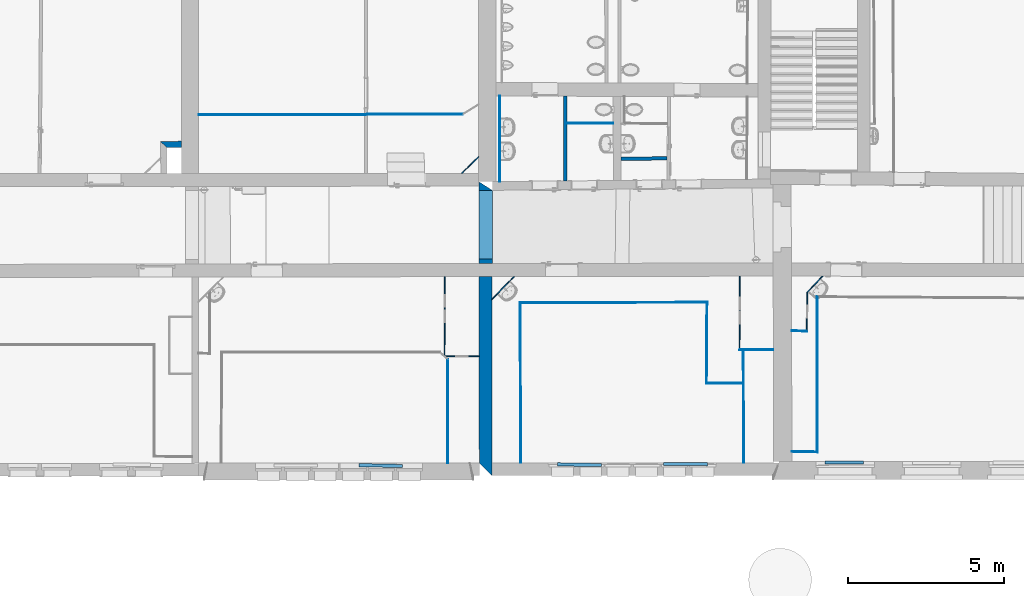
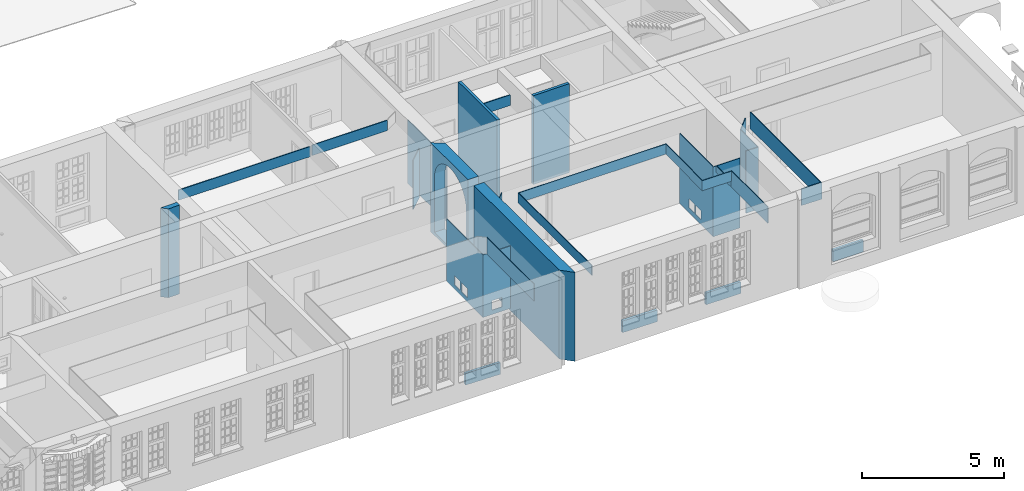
# One storey, part 33 of 158: 31 walls, 7 openings.
"""IFC2X3 building model written with IfcOpenShell, lengths in metres."""

from ifc_helpers import new_model, entity, si_unit, converted_unit, derived_unit, money_unit, direction, frame, origin_with_axes, origin_2d_with_axis, place, context, subcontext, project, spatial, polyline, rectangle, outline, extrude, faceted_brep, material, layer, layer_set, layer_usage, type_object, element, save


model = new_model("IFC2X3")

# Units and contexts
model_context = context("Model", 3, precision=1e-05, world=origin_with_axes(), true_north=direction((0.0, 1.0)))
body_context = subcontext(model_context, "Body", "Model", "MODEL_VIEW")
ifc_project = project(units=[si_unit("LENGTHUNIT", "METRE"), si_unit("AREAUNIT", "SQUARE_METRE"), si_unit("VOLUMEUNIT", "CUBIC_METRE"), converted_unit("PLANEANGLEUNIT", "DEGREE", entity("IfcPlaneAngleMeasure", 0.0174532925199), si_unit("PLANEANGLEUNIT", "RADIAN"), dimensions=[0, 0, 0, 0, 0, 0, 0]), money_unit("EUR"), converted_unit("TIMEUNIT", "Year", entity("IfcTimeMeasure", 31556926.0), si_unit("TIMEUNIT", "SECOND"), dimensions=[0, 0, 1, 0, 0, 0, 0]), si_unit("MASSUNIT", "GRAM", prefix="KILO"), si_unit("THERMODYNAMICTEMPERATUREUNIT", "DEGREE_CELSIUS"), si_unit("LUMINOUSINTENSITYUNIT", "LUMEN"), si_unit("ENERGYUNIT", "JOULE", prefix="MEGA"), derived_unit("THERMALCONDUCTANCEUNIT", [(si_unit("POWERUNIT", "WATT"), 1), (si_unit("LENGTHUNIT", "METRE"), -1), (si_unit("THERMODYNAMICTEMPERATUREUNIT", "KELVIN"), -1)]), derived_unit("SPECIFICHEATCAPACITYUNIT", [(si_unit("ENERGYUNIT", "JOULE"), 1), (si_unit("MASSUNIT", "GRAM", prefix="KILO"), -1), (si_unit("THERMODYNAMICTEMPERATUREUNIT", "KELVIN"), -1)]), derived_unit("MASSDENSITYUNIT", [(si_unit("MASSUNIT", "GRAM", prefix="KILO"), 1), (si_unit("VOLUMEUNIT", "CUBIC_METRE"), -1)])], contexts=[model_context])

# Site, building, storey
site_placement = place(None, origin_with_axes())
site = spatial("IfcSite", under=ifc_project, at=site_placement, Name="Gelände", CompositionType="ELEMENT")
building_placement = place(site_placement, origin_with_axes())
building = spatial("IfcBuilding", under=site, at=building_placement, Name="Gebäude", CompositionType="ELEMENT")
storey_placement = place(building_placement, origin_with_axes())
storey = spatial("IfcBuildingStorey", under=building, at=storey_placement, Name="ERDGESCHOSS", CompositionType="ELEMENT", Elevation=0.0)

# Wall
ifc_material_1 = material(Name="05_ALLGEMEIN - TRAGENDE BAUTEILE")
ifc_layer_1 = layer(ifc_material_1, 0.2, ventilated="UNKNOWN")
ifc_layer_set_1 = layer_set([ifc_layer_1], Name="05_ALLGEMEIN - TRAGENDE BAUTEILE 0.2")
ifc_layer_usage_1 = layer_usage(ifc_layer_set_1, "AXIS2", "NEGATIVE", 0.0)
wall_type_1 = type_object("IfcWallType", Name="05_ALLGEMEIN - TRAGENDE BAUTEILE 200", PredefinedType="ELEMENTEDWALL")
wall_1_placement = place(storey_placement, frame((2.347502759, 20.7088075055, -0.21), z_axis=(0.0, 0.0, 1.0), x_axis=(0.999739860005, 0.0228081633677, 0.0)))
element("IfcWallStandardCase", 1, at=wall_1_placement, inside=storey, type_object=wall_type_1, material=ifc_layer_usage_1, Name="Wand-039", ObjectType="ELEMENTEDWALL", context=body_context, shape_type="SweptSolid", body=[
    extrude(outline(polyline([(0.197078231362, -0.2), (0.66419773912, -0.2), (0.668812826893, 0.0), (0.0, 0.0), (0.197078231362, -0.2)])), origin_with_axes(), (0.0, 0.0, 1.0), 3.81),
])

# Wall, openings
ifc_material_2 = material(Name="43_Gipskarton")
ifc_layer_2 = layer(ifc_material_2, 0.03, ventilated="UNKNOWN")
ifc_layer_set_2 = layer_set([ifc_layer_2], Name="43_Gipskarton 0.03")
ifc_layer_usage_2 = layer_usage(ifc_layer_set_2, "AXIS2", "NEGATIVE", 0.03)
wall_type_2 = type_object("IfcWallType", Name="43_Gipskarton 30", PredefinedType="ELEMENTEDWALL")
wall_2_placement = place(storey_placement, frame((11.433919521, 16.8029035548, -0.1), z_axis=(0.0, 0.0, 1.0), x_axis=(-0.00157695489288, -0.999998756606, 0.0)))
wall_2 = element("IfcWallStandardCase", 2, at=wall_2_placement, inside=storey, type_object=wall_type_2, material=ifc_layer_usage_2, Name="Wand-032", ObjectType="ELEMENTEDWALL", context=body_context, shape_type="SweptSolid", body=[
    extrude(outline(polyline([(0.420002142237, 0.0), (2.9872256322, 0.0), (2.95715626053, 0.03), (0.41990632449, 0.03), (0.420002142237, 0.0)])), origin_with_axes(), (0.0, 0.0, 1.0), 2.675),
])
opening_1_placement = place(wall_2_placement, frame((1.18915228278, 0.0, 0.185699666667), z_axis=(0.0, 0.0, 1.0), x_axis=(1.0, 0.0, 0.0)))
element("IfcOpeningElement", 3, at=opening_1_placement, cuts=wall_2, Name="Tür-022", context=body_context, shape_type="SweptSolid", body=[
    extrude(rectangle(XDim=0.397609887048, YDim=0.396051, at=origin_2d_with_axis()), frame((0.0, -0.03, 0.1980255), z_axis=(0.0, 1.0, 0.0), x_axis=(-1.0, 0.0, 0.0)), (0.0, 0.0, 1.0), 0.09),
])
opening_2_placement = place(wall_2_placement, frame((1.69003171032, 0.0, 0.182942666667), z_axis=(0.0, 0.0, 1.0), x_axis=(1.0, 0.0, 0.0)))
element("IfcOpeningElement", 4, at=opening_2_placement, cuts=wall_2, Name="Tür-022", context=body_context, shape_type="SweptSolid", body=[
    extrude(rectangle(XDim=0.397966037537, YDim=0.397411, at=origin_2d_with_axis()), frame((0.0, -0.03, 0.1987055), z_axis=(0.0, -1.0, 0.0), x_axis=(1.0, 0.0, 0.0)), (0.0, 0.0, -1.0), 0.09),
])

# Wall
ifc_layer_usage_3 = layer_usage(ifc_layer_set_2, "AXIS2", "NEGATIVE", 0.0)
wall_3_placement = place(storey_placement, frame((14.0999121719, 16.8072143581, -0.08), z_axis=(0.0, 0.0, 1.0), x_axis=(-0.695520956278, -0.718505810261, 0.0)))
element("IfcWallStandardCase", 5, at=wall_3_placement, inside=storey, type_object=wall_type_2, material=ifc_layer_usage_3, Name="Wand-032", ObjectType="ELEMENTEDWALL", context=body_context, shape_type="SweptSolid", body=[
    extrude(outline(polyline([(0.614597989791, -0.03), (1.60410296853, -0.03), (1.63503783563, 0.0), (0.585463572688, 0.0), (0.614597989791, -0.03)])), origin_with_axes(), (0.0, 0.0, 1.0), 2.99),
])

# Wall, opening
ifc_layer_usage_4 = layer_usage(ifc_layer_set_2, "AXIS2", "NEGATIVE", 0.03)
wall_4_placement = place(storey_placement, frame((11.429208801, 13.8156816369, -0.1), z_axis=(0.0, 0.0, 1.0), x_axis=(0.99999973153, 0.000732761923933, 0.0)))
wall_4 = element("IfcWallStandardCase", 6, at=wall_4_placement, inside=storey, type_object=wall_type_2, material=ifc_layer_usage_4, Name="Wand-032", ObjectType="ELEMENTEDWALL", context=body_context, shape_type="SweptSolid", body=[
    extrude(outline(polyline([(0.0, 0.0), (1.12515762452, 0.0), (1.12515222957, 0.03), (0.0300693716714, 0.03), (0.0, 0.0)])), origin_with_axes(), (0.0, 0.0, 1.0), 2.675),
])
opening_3_placement = place(wall_4_placement, frame((0.572615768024, 0.0, 0.183988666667), z_axis=(0.0, 0.0, 1.0), x_axis=(1.0, 0.0, 0.0)))
element("IfcOpeningElement", 7, at=opening_3_placement, cuts=wall_4, Name="Tür-022", context=body_context, shape_type="SweptSolid", body=[
    extrude(rectangle(XDim=0.395630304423, YDim=0.407348, at=origin_2d_with_axis()), frame((0.0, -0.03, 0.203674), z_axis=(0.0, -1.0, 0.0), x_axis=(1.0, 0.0, 0.0)), (0.0, 0.0, -1.0), 0.09),
])

# Wall, openings
ifc_layer_usage_5 = layer_usage(ifc_layer_set_2, "AXIS2", "NEGATIVE", 0.0)
wall_5_placement = place(storey_placement, frame((20.8793079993, 14.0239447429, -0.08), z_axis=(0.0, 0.0, 1.0), x_axis=(0.00447703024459, 0.99998997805, 0.0)))
wall_5 = element("IfcWallStandardCase", 8, at=wall_5_placement, inside=storey, type_object=wall_type_2, material=ifc_layer_usage_5, Name="Wand-032", ObjectType="ELEMENTEDWALL", context=body_context, shape_type="SweptSolid", body=[
    extrude(outline(polyline([(0.0303463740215, -0.03), (2.37445488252, -0.03), (2.37427206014, 0.0), (0.0, 0.0), (0.0303463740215, -0.03)])), origin_with_axes(), (0.0, 0.0, 1.0), 2.99),
])
opening_4_placement = place(wall_5_placement, frame((1.50527018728, 0.0, 0.212121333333), z_axis=(0.0, 0.0, 1.0), x_axis=(1.0, 0.0, 0.0)))
element("IfcOpeningElement", 9, at=opening_4_placement, cuts=wall_5, Name="Tür-022", context=body_context, shape_type="SweptSolid", body=[
    extrude(rectangle(XDim=0.403525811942, YDim=0.394103, at=origin_2d_with_axis()), frame((0.0, 0.03, 0.1970515), z_axis=(0.0, -1.0, 0.0), x_axis=(1.0, 0.0, 0.0)), (0.0, 0.0, 1.0), 0.09),
])
opening_5_placement = place(wall_5_placement, frame((1.04925200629, 0.0, 0.210440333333), z_axis=(0.0, 0.0, 1.0), x_axis=(1.0, 0.0, 0.0)))
element("IfcOpeningElement", 10, at=opening_5_placement, cuts=wall_5, Name="Tür-022", context=body_context, shape_type="SweptSolid", body=[
    extrude(rectangle(XDim=0.40395194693, YDim=0.395277, at=origin_2d_with_axis()), frame((0.0, 0.03, 0.1976385), z_axis=(0.0, 1.0, 0.0), x_axis=(-1.0, 0.0, 0.0)), (0.0, 0.0, -1.0), 0.09),
])

# Wall
ifc_layer_usage_6 = layer_usage(ifc_layer_set_2, "AXIS2", "NEGATIVE", 0.0)
wall_6_placement = place(storey_placement, frame((23.0663536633, 14.6230287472, -0.03), z_axis=(0.0, 0.0, 1.0), x_axis=(-0.999829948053, 0.0184411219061, 0.0)))
element("IfcWallStandardCase", 11, at=wall_6_placement, inside=storey, type_object=wall_type_2, material=ifc_layer_usage_6, Name="Wand-032", ObjectType="ELEMENTEDWALL", context=body_context, shape_type="SweptSolid", body=[
    extrude(outline(polyline([(0.0302278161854, -0.03), (0.50385921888, -0.03), (0.503211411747, 0.0), (0.0, 0.0), (0.0302278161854, -0.03)])), origin_with_axes(), (0.0, 0.0, 1.0), 2.67),
])

# Wall, opening
ifc_layer_usage_7 = layer_usage(ifc_layer_set_2, "AXIS2", "NEGATIVE", 0.0)
wall_7_placement = place(storey_placement, frame((23.0800070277, 15.8782238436, -0.03), z_axis=(0.0, 0.0, 1.0), x_axis=(-0.0108768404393, -0.999940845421, 0.0)))
wall_7 = element("IfcWallStandardCase", 12, at=wall_7_placement, inside=storey, type_object=wall_type_2, material=ifc_layer_usage_7, Name="Wand-033", ObjectType="ELEMENTEDWALL", context=body_context, shape_type="SweptSolid", body=[
    extrude(outline(polyline([(-0.0118052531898, -0.03), (1.22504153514, -0.03), (1.25526935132, 0.0), (0.0, 0.0), (-0.0118052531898, -0.03)])), origin_with_axes(), (0.0, 0.0, 1.0), 2.67),
])
opening_6_placement = place(wall_7_placement, frame((0.613285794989, 0.0, 0.128382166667), z_axis=(0.0, 0.0, 1.0), x_axis=(1.0, 0.0, 0.0)))
element("IfcOpeningElement", 13, at=opening_6_placement, cuts=wall_7, Name="Brandschutzklappe", context=body_context, shape_type="SweptSolid", body=[
    extrude(rectangle(XDim=0.40203690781, YDim=0.401117, at=origin_2d_with_axis()), frame((0.0, 0.03, 0.2005585), z_axis=(0.0, 1.0, 0.0), x_axis=(-1.0, 0.0, 0.0)), (0.0, 0.0, -1.0), 0.09),
])

# Walls
ifc_layer_usage_8 = layer_usage(ifc_layer_set_2, "AXIS2", "NEGATIVE", 0.0)
wall_8_placement = place(storey_placement, frame((21.9802496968, 14.0316540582, -0.08), z_axis=(0.0, 0.0, 1.0), x_axis=(-0.999975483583, -0.00700230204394, 0.0)))
element("IfcWallStandardCase", 14, at=wall_8_placement, inside=storey, type_object=wall_type_2, material=ifc_layer_usage_8, Name="Wand-033", ObjectType="ELEMENTEDWALL", context=body_context, shape_type="SweptSolid", body=[
    extrude(outline(polyline([(-0.000115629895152, -0.03), (1.07062231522, -0.03), (1.10096868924, 0.0), (0.0, 0.0), (-0.000115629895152, -0.03)])), origin_with_axes(), (0.0, 0.0, 1.0), 2.99),
])
ifc_layer_usage_9 = layer_usage(ifc_layer_set_2, "AXIS2", "NEGATIVE", 0.0)
wall_9_placement = place(storey_placement, frame((23.9734249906, 16.8169521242, -0.03), z_axis=(0.0, 0.0, 1.0), x_axis=(-0.689408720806, -0.7243725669, 0.0)))
element("IfcWallStandardCase", 15, at=wall_9_placement, inside=storey, type_object=wall_type_2, material=ifc_layer_usage_9, Name="Wand-034", ObjectType="ELEMENTEDWALL", context=body_context, shape_type="SweptSolid", body=[
    extrude(outline(polyline([(0.607276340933, -0.03), (1.30772440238, -0.03), (1.29591914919, 0.0), (0.578826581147, 0.0), (0.607276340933, -0.03)])), origin_with_axes(), (0.0, 0.0, 1.0), 2.67),
])
ifc_layer_usage_10 = layer_usage(ifc_layer_set_2, "AXIS2", "NEGATIVE", 0.03)
wall_10_placement = place(storey_placement, frame((13.2351068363, 19.1508835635, -0.03), z_axis=(0.0, 0.0, 1.0), x_axis=(-0.00302870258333, 0.99999541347, 0.0)))
element("IfcWallStandardCase", 16, at=wall_10_placement, inside=storey, type_object=wall_type_2, material=ifc_layer_usage_10, Name="Wand-039", ObjectType="ELEMENTEDWALL", context=body_context, shape_type="SweptSolid", body=[
    extrude(outline(polyline([(0.280005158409, 0.0), (3.02227898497, 0.0), (3.02248949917, 0.03), (0.279823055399, 0.03), (0.280005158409, 0.0)])), origin_with_axes(), (0.0, 0.0, 1.0), 2.73),
])
ifc_layer_usage_11 = layer_usage(ifc_layer_set_2, "AXIS2", "NEGATIVE", 0.0)
wall_11_placement = place(storey_placement, frame((11.5526328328, 19.2809126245, 0.77), z_axis=(0.0, 0.0, 1.0), x_axis=(0.715801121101, 0.698304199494, 0.0)))
element("IfcWallStandardCase", 17, at=wall_11_placement, inside=storey, type_object=wall_type_2, material=ifc_layer_usage_11, Name="Wand-040", ObjectType="ELEMENTEDWALL", context=body_context, shape_type="SweptSolid", body=[
    extrude(outline(polyline([(0.624693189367, -0.03), (1.35027068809, -0.03), (1.37952379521, 0.0), (0.593923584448, 0.0), (0.624693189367, -0.03)])), origin_with_axes(), (0.0, 0.0, 1.0), 2.115),
])
ifc_layer_usage_12 = layer_usage(ifc_layer_set_2, "AXIS2", "NEGATIVE", 0.0)
wall_12_placement = place(storey_placement, frame((8.97528229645, 21.6021981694, 2.985), z_axis=(0.0, 0.0, 1.0), x_axis=(0.999998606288, 0.00166955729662, 0.0)))
element("IfcWallStandardCase", 18, at=wall_12_placement, inside=storey, type_object=wall_type_2, material=ifc_layer_usage_12, Name="Wand-041", ObjectType="ELEMENTEDWALL", context=body_context, shape_type="SweptSolid", body=[
    extrude(outline(polyline([(-5.54067699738e-05, -0.03), (3.06089558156, -0.03), (3.05242438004, 0.0), (0.0, 0.0), (-5.54067699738e-05, -0.03)])), origin_with_axes(), (0.0, 0.0, 1.0), 0.4475),
])
ifc_layer_usage_13 = layer_usage(ifc_layer_set_2, "AXIS2", "NEGATIVE", 0.0)
wall_13_placement = place(storey_placement, frame((15.2524050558, 21.3100748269, 2.56), z_axis=(0.0, 0.0, 1.0), x_axis=(0.999999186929, -0.00127520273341, 0.0)))
element("IfcWallStandardCase", 19, at=wall_13_placement, inside=storey, type_object=wall_type_2, material=ifc_layer_usage_13, Name="Wand-041", ObjectType="ELEMENTEDWALL", context=body_context, shape_type="SweptSolid", body=[
    extrude(outline(polyline([(0.112066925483, -0.03), (1.59511230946, -0.03), (1.59497325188, 0.0), (0.111969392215, 0.0), (0.112066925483, -0.03)])), origin_with_axes(), (0.0, 0.0, 1.0), 0.46),
])
ifc_layer_usage_14 = layer_usage(ifc_layer_set_2, "AXIS2", "NEGATIVE", 0.0)
wall_14_placement = place(storey_placement, frame((3.56636745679, 21.5886652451, 2.975), z_axis=(0.0, 0.0, 1.0), x_axis=(0.999999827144, 0.000587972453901, 0.0)))
element("IfcWallStandardCase", 20, at=wall_14_placement, inside=storey, type_object=wall_type_2, material=ifc_layer_usage_14, Name="Wand-041", ObjectType="ELEMENTEDWALL", context=body_context, shape_type="SweptSolid", body=[
    extrude(outline(polyline([(-2.54752745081e-05, -0.03), (5.34743826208, -0.03), (5.34743826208, 0.0), (0.0, 0.0), (-2.54752745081e-05, -0.03)])), origin_with_axes(), (0.0, 0.0, 1.0), 0.44),
])
ifc_layer_usage_15 = layer_usage(ifc_layer_set_2, "AXIS2", "NEGATIVE", 0.03)
wall_15_placement = place(storey_placement, frame((13.9023895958, 10.0092273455, 2.91), z_axis=(0.0, 0.0, 1.0), x_axis=(-0.00268010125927, 0.999996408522, 0.0)))
element("IfcWallStandardCase", 21, at=wall_15_placement, inside=storey, type_object=wall_type_2, material=ifc_layer_usage_15, Name="Wand-041", ObjectType="ELEMENTEDWALL", context=body_context, shape_type="SweptSolid", body=[
    extrude(outline(polyline([(0.405000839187, 0.0), (5.52428032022, 0.0), (5.5543107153, 0.03), (0.40506191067, 0.03), (0.405000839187, 0.0)])), origin_with_axes(), (0.0, 0.0, 1.0), 0.43),
])
ifc_layer_usage_16 = layer_usage(ifc_layer_set_2, "AXIS2", "NEGATIVE", 0.03)
wall_16_placement = place(storey_placement, frame((13.8875839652, 15.5334878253, 2.91), z_axis=(0.0, 0.0, 1.0), x_axis=(0.999998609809, 0.00166744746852, 0.0)))
element("IfcWallStandardCase", 22, at=wall_16_placement, inside=storey, type_object=wall_type_2, material=ifc_layer_usage_16, Name="Wand-042", ObjectType="ELEMENTEDWALL", context=body_context, shape_type="SweptSolid", body=[
    extrude(outline(polyline([(0.0, 0.0), (5.95258924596, 0.0), (5.98285223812, 0.03), (-0.0300303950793, 0.03), (0.0, 0.0)])), origin_with_axes(), (0.0, 0.0, 1.0), 0.43),
])
ifc_layer_usage_17 = layer_usage(ifc_layer_set_2, "AXIS2", "NEGATIVE", 0.03)
wall_17_placement = place(storey_placement, frame((19.8401649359, 15.5434134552, 2.91), z_axis=(0.0, 0.0, 1.0), x_axis=(-0.00706058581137, -0.999975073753, 0.0)))
element("IfcWallStandardCase", 23, at=wall_17_placement, inside=storey, type_object=wall_type_2, material=ifc_layer_usage_17, Name="Wand-043", ObjectType="ELEMENTEDWALL", context=body_context, shape_type="SweptSolid", body=[
    extrude(outline(polyline([(0.0, 0.0), (2.58312023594, 0.0), (2.55307089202, 0.03), (-0.0302629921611, 0.03), (0.0, 0.0)])), origin_with_axes(), (0.0, 0.0, 1.0), 0.43),
])
ifc_layer_usage_18 = layer_usage(ifc_layer_set_2, "AXIS2", "NEGATIVE", 0.03)
wall_18_placement = place(storey_placement, frame((11.5378560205, 13.7316378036, 2.625), z_axis=(0.0, 0.0, 1.0), x_axis=(-0.00219530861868, -0.999997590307, 0.0)))
element("IfcWallStandardCase", 24, at=wall_18_placement, inside=storey, type_object=wall_type_2, material=ifc_layer_usage_18, Name="Wand-044", ObjectType="ELEMENTEDWALL", context=body_context, shape_type="SweptSolid", body=[
    extrude(outline(polyline([(0.0, 0.0), (3.318592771, 0.0), (3.31853213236, 0.03), (-0.0134520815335, 0.03), (0.0, 0.0)])), origin_with_axes(), (0.0, 0.0, 1.0), 0.725),
])
ifc_layer_usage_19 = layer_usage(ifc_layer_set_2, "AXIS2", "NEGATIVE", 0.03)
wall_19_placement = place(storey_placement, frame((19.8219265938, 12.9603576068, 2.91), z_axis=(0.0, 0.0, 1.0), x_axis=(0.999985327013, -0.00541717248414, 0.0)))
element("IfcWallStandardCase", 25, at=wall_19_placement, inside=storey, type_object=wall_type_2, material=ifc_layer_usage_19, Name="Wand-044", ObjectType="ELEMENTEDWALL", context=body_context, shape_type="SweptSolid", body=[
    extrude(outline(polyline([(0.0, 0.0), (1.18588747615, 0.0), (1.185661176, 0.03), (0.030049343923, 0.03), (0.0, 0.0)])), origin_with_axes(), (0.0, 0.0, 1.0), 0.43),
])
ifc_layer_usage_20 = layer_usage(ifc_layer_set_2, "AXIS2", "NEGATIVE", 0.03)
wall_20_placement = place(storey_placement, frame((21.0055199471, 14.0248285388, 2.64), z_axis=(0.0, 0.0, 1.0), x_axis=(0.00212599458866, -0.999997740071, 0.0)))
element("IfcWallStandardCase", 26, at=wall_20_placement, inside=storey, type_object=wall_type_2, material=ifc_layer_usage_20, Name="Wand-045", ObjectType="ELEMENTEDWALL", context=body_context, shape_type="SweptSolid", body=[
    extrude(outline(polyline([(0.0, 0.0), (1.04089665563, 0.0), (1.04089665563, 0.03), (-0.000146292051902, 0.03), (0.0, 0.0)])), origin_with_axes(), (0.0, 0.0, 1.0), 0.27),
])
ifc_layer_usage_21 = layer_usage(ifc_layer_set_2, "AXIS2", "NEGATIVE", 0.03)
wall_21_placement = place(storey_placement, frame((21.0077328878, 12.9839342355, 2.64), z_axis=(0.0, 0.0, 1.0), x_axis=(0.00212599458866, -0.999997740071, 0.0)))
element("IfcWallStandardCase", 27, at=wall_21_placement, inside=storey, type_object=wall_type_2, material=ifc_layer_usage_21, Name="Wand-045", ObjectType="ELEMENTEDWALL", context=body_context, shape_type="SweptSolid", body=[
    extrude(outline(polyline([(0.0, 0.0), (2.56513046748, 0.0), (2.56517491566, 0.03), (0.0, 0.03), (0.0, 0.0)])), origin_with_axes(), (0.0, 0.0, 1.0), 0.7),
])
ifc_layer_usage_22 = layer_usage(ifc_layer_set_2, "AXIS2", "NEGATIVE", 0.0)
wall_22_placement = place(storey_placement, frame((23.4031106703, 15.7215350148, 2.64), z_axis=(0.0, 0.0, 1.0), x_axis=(-0.00158019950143, -0.999998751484, 0.0)))
element("IfcWallStandardCase", 28, at=wall_22_placement, inside=storey, type_object=wall_type_2, material=ifc_layer_usage_22, Name="Wand-046", ObjectType="ELEMENTEDWALL", context=body_context, shape_type="SweptSolid", body=[
    extrude(outline(polyline([(-0.0301302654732, -0.03), (4.94118705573, -0.03), (4.97176397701, 0.0), (0.0, 0.0), (-0.0301302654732, -0.03)])), origin_with_axes(), (0.0, 0.0, 1.0), 0.72),
])
ifc_layer_usage_23 = layer_usage(ifc_layer_set_2, "AXIS2", "NEGATIVE", 0.0)
wall_23_placement = place(storey_placement, frame((23.3952542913, 10.7497772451, 2.64), z_axis=(0.0, 0.0, 1.0), x_axis=(-0.999787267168, 0.0206257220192, 0.0)))
element("IfcWallStandardCase", 29, at=wall_23_placement, inside=storey, type_object=wall_type_2, material=ifc_layer_usage_23, Name="Wand-047", ObjectType="ELEMENTEDWALL", context=body_context, shape_type="SweptSolid", body=[
    extrude(outline(polyline([(0.0305769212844, -0.03), (0.820745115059, -0.03), (0.820031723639, 0.0), (0.0, 0.0), (0.0305769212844, -0.03)])), origin_with_axes(), (0.0, 0.0, 1.0), 0.72),
])
ifc_material_3 = material(Name="01_ALLGEMEIN - BAUTEIL")
ifc_layer_3 = layer(ifc_material_3, 0.105, ventilated="UNKNOWN")
ifc_layer_set_3 = layer_set([ifc_layer_3], Name="01_ALLGEMEIN - BAUTEIL 0.105")
ifc_layer_usage_24 = layer_usage(ifc_layer_set_3, "AXIS2", "NEGATIVE", 0.0)
wall_type_3 = type_object("IfcWallType", Name="01_ALLGEMEIN - BAUTEIL 105", PredefinedType="ELEMENTEDWALL")
wall_24_placement = place(storey_placement, frame((15.0644366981, 10.4234305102, 0.0935706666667), z_axis=(0.0, 0.0, 1.0), x_axis=(0.999859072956, -0.0167879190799, 0.0)))
element("IfcWallStandardCase", 30, at=wall_24_placement, inside=storey, type_object=wall_type_3, material=ifc_layer_usage_24, Name="Wand-036", ObjectType="ELEMENTEDWALL", context=body_context, shape_type="SweptSolid", body=[
    extrude(outline(polyline([(0.0, -0.105), (1.40608963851, -0.105), (1.40608963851, 0.0), (0.0, 0.0), (0.0, -0.105)])), origin_with_axes(), (0.0, 0.0, 1.0), 0.501014),
])
ifc_layer_usage_25 = layer_usage(ifc_layer_set_3, "AXIS2", "NEGATIVE", 0.0)
wall_25_placement = place(storey_placement, frame((8.70009896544, 10.3985569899, 0.0935706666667), z_axis=(0.0, 0.0, 1.0), x_axis=(0.999775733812, -0.0211773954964, 0.0)))
element("IfcWallStandardCase", 31, at=wall_25_placement, inside=storey, type_object=wall_type_3, material=ifc_layer_usage_25, Name="Wand-036", ObjectType="ELEMENTEDWALL", context=body_context, shape_type="SweptSolid", body=[
    extrude(outline(polyline([(0.0, -0.105), (1.39337122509, -0.105), (1.39337122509, 0.0), (0.0, 0.0), (0.0, -0.105)])), origin_with_axes(), (0.0, 0.0, 1.0), 0.501014),
])
ifc_layer_usage_26 = layer_usage(ifc_layer_set_3, "AXIS2", "NEGATIVE", 0.105)
wall_26_placement = place(storey_placement, frame((24.8650977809, 10.4831975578, 0.0935706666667), z_axis=(0.0, 0.0, 1.0), x_axis=(-1.0, 0.0, 0.0)))
element("IfcWallStandardCase", 32, at=wall_26_placement, inside=storey, type_object=wall_type_3, material=ifc_layer_usage_26, Name="Wand-037", ObjectType="ELEMENTEDWALL", context=body_context, shape_type="SweptSolid", body=[
    extrude(outline(polyline([(0.0, 0.0), (1.22744662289, 0.0), (1.22744662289, 0.105), (0.0, 0.105), (0.0, 0.0)])), origin_with_axes(), (0.0, 0.0, 1.0), 0.501014),
])
ifc_layer_usage_27 = layer_usage(ifc_layer_set_3, "AXIS2", "NEGATIVE", 0.0)
wall_27_placement = place(storey_placement, frame((18.4647893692, 10.4337889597, 0.0935706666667), z_axis=(0.0, 0.0, 1.0), x_axis=(0.999997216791, -0.00235932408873, 0.0)))
element("IfcWallStandardCase", 33, at=wall_27_placement, inside=storey, type_object=wall_type_3, material=ifc_layer_usage_27, Name="Wand-037", ObjectType="ELEMENTEDWALL", context=body_context, shape_type="SweptSolid", body=[
    extrude(outline(polyline([(0.0, -0.105), (1.39968391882, -0.105), (1.39968391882, 0.0), (0.0, 0.0), (0.0, -0.105)])), origin_with_axes(), (0.0, 0.0, 1.0), 0.501014),
])
ifc_layer_4 = layer(ifc_material_1, 0.41, ventilated="UNKNOWN")
ifc_layer_set_4 = layer_set([ifc_layer_4], Name="05_ALLGEMEIN - TRAGENDE BAUTEILE 0.41")
ifc_layer_usage_28 = layer_usage(ifc_layer_set_4, "AXIS2", "NEGATIVE", 0.41)
wall_type_4 = type_object("IfcWallType", Name="05_ALLGEMEIN - TRAGENDE BAUTEILE 410", PredefinedType="ELEMENTEDWALL")
wall_28_placement = place(storey_placement, frame((12.5516391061, 16.8047108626, -0.21), z_axis=(0.0, 0.0, 1.0), x_axis=(0.000912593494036, -0.999999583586, 0.0)))
element("IfcWallStandardCase", 34, at=wall_28_placement, inside=storey, type_object=wall_type_4, material=ifc_layer_usage_28, Name="Wand-036", ObjectType="ELEMENTEDWALL", context=body_context, shape_type="SweptSolid", body=[
    extrude(outline(polyline([(0.420000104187, 0.0), (6.39135274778, 0.0), (6.79646272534, 0.41), (0.41971131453, 0.41), (0.420000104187, 0.0)])), origin_with_axes(), (0.0, 0.0, 1.0), 3.81),
])
ifc_layer_5 = layer(ifc_material_2, 0.111968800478, ventilated="UNKNOWN")
ifc_layer_set_5 = layer_set([ifc_layer_5], Name="43_Gipskarton 0.111969")
ifc_layer_usage_29 = layer_usage(ifc_layer_set_5, "AXIS2", "NEGATIVE", 0.111968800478)
wall_type_5 = type_object("IfcWallType", Name="43_Gipskarton 112", PredefinedType="ELEMENTEDWALL")
wall_29_placement = place(storey_placement, frame((15.250715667, 22.1650732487, -0.21), z_axis=(0.0, 0.0, 1.0), x_axis=(0.00197589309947, -0.999998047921, 0.0)))
element("IfcWallStandardCase", 35, at=wall_29_placement, inside=storey, type_object=wall_type_5, material=ifc_layer_usage_29, Name="Wand-039", ObjectType="ELEMENTEDWALL", context=body_context, shape_type="SweptSolid", body=[
    extrude(outline(polyline([(0.0, 0.0), (2.71579457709, 0.0), (2.7149970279, 0.111968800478), (0.000667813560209, 0.111968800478), (0.0, 0.0)])), origin_with_axes(), (0.0, 0.0, 1.0), 3.81),
])
ifc_layer_usage_30 = layer_usage(ifc_layer_set_5, "AXIS2", "NEGATIVE", 0.111968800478)
wall_30_placement = place(storey_placement, frame((18.6779341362, 20.2302100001, -0.210000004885), z_axis=(0.0, 0.0, 1.0), x_axis=(-0.999962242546, -0.00868984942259, 0.0)))
element("IfcWallStandardCase", 36, at=wall_30_placement, inside=storey, type_object=wall_type_5, material=ifc_layer_usage_30, Name="Wand-039", ObjectType="ELEMENTEDWALL", context=body_context, shape_type="SweptSolid", body=[
    extrude(outline(polyline([(0.100007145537, 0.0), (1.57694766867, 0.0), (1.57754446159, 0.111968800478), (0.101345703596, 0.111968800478), (0.100007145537, 0.0)])), origin_with_axes(), (0.0, 0.0, 1.0), 3.81000000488),
])

# Wall, opening
ifc_layer_6 = layer(ifc_material_1, 0.430884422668, ventilated="UNKNOWN")
ifc_layer_set_6 = layer_set([ifc_layer_6], Name="05_ALLGEMEIN - TRAGENDE BAUTEILE 0.430884")
ifc_layer_usage_31 = layer_usage(ifc_layer_set_6, "AXIS2", "NEGATIVE", 0.0)
wall_type_6 = type_object("IfcWallType", Name="05_ALLGEMEIN - TRAGENDE BAUTEILE 431", PredefinedType="ELEMENTEDWALL")
wall_31_placement = place(storey_placement, frame((12.5480116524, 16.8047049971, -0.21), z_axis=(0.0, 0.0, 1.0), x_axis=(-0.000485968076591, 0.999999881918, 0.0)))
wall_31 = element("IfcWallStandardCase", 37, at=wall_31_placement, inside=storey, type_object=wall_type_6, material=ifc_layer_usage_31, Name="Wand-043", ObjectType="ELEMENTEDWALL", context=body_context, shape_type="SweptSolid", body=[
    extrude(outline(polyline([(0.000487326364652, -0.430884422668), (2.34362782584, -0.430884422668), (2.61992701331, 0.0), (0.0, 0.0), (0.000487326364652, -0.430884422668)])), origin_with_axes(), (0.0, 0.0, 1.0), 3.81),
])
opening_7_placement = place(wall_31_placement, frame((1.24250120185, 0.0, 0.14), z_axis=(0.0, 0.0, 1.0), x_axis=(1.0, 0.0, 0.0)))
element("IfcOpeningElement", 38, at=opening_7_placement, cuts=wall_31, Name="Tür-022", context=body_context, shape_type="Brep", body=[
    faceted_brep([(-1.09913802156, -0.430884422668, 0.0), (-1.09913802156, -0.430884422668, 2.50759), (-1.09913802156, 0.861768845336, 2.50759), (-1.09913802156, 0.861768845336, 0.0), (1.09913802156, -0.430884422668, 0.0), (1.09913802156, -0.430884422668, 2.50759), (0.999598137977, -0.430884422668, 2.79897757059), (0.824441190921, -0.430884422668, 3.05222635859), (0.586917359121, -0.430884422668, 3.24817873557), (0.304994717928, -0.430884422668, 3.37201140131), (0.0, -0.430884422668, 3.41435672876), (-0.304994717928, -0.430884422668, 3.37201140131), (-0.586917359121, -0.430884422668, 3.24817873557), (-0.824441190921, -0.430884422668, 3.05222635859), (-0.999598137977, -0.430884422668, 2.79897757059), (-0.999598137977, 0.861768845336, 2.79897757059), (-0.824441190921, 0.861768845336, 3.05222635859), (-0.586917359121, 0.861768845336, 3.24817873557), (-0.304994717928, 0.861768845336, 3.37201140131), (0.0, 0.861768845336, 3.41435672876), (0.304994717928, 0.861768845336, 3.37201140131), (0.586917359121, 0.861768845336, 3.24817873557), (0.824441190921, 0.861768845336, 3.05222635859), (0.999598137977, 0.861768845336, 2.79897757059), (1.09913802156, 0.861768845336, 2.50759), (1.09913802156, 0.861768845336, 0.0)], [[[0, 1, 2, 3]], [[0, 4, 5, 6, 7, 8, 9, 10, 11, 12, 13, 14, 1]], [[1, 14, 15, 2]], [[3, 2, 15, 16, 17, 18, 19, 20, 21, 22, 23, 24, 25]], [[4, 0, 3, 25]], [[5, 4, 25, 24]], [[6, 5, 24, 23]], [[7, 6, 23, 22]], [[8, 7, 22, 21]], [[9, 8, 21, 20]], [[10, 9, 20, 19]], [[11, 10, 19, 18]], [[12, 11, 18, 17]], [[13, 12, 17, 16]], [[14, 13, 16, 15]]]),
])

save(model, "model.ifc")
